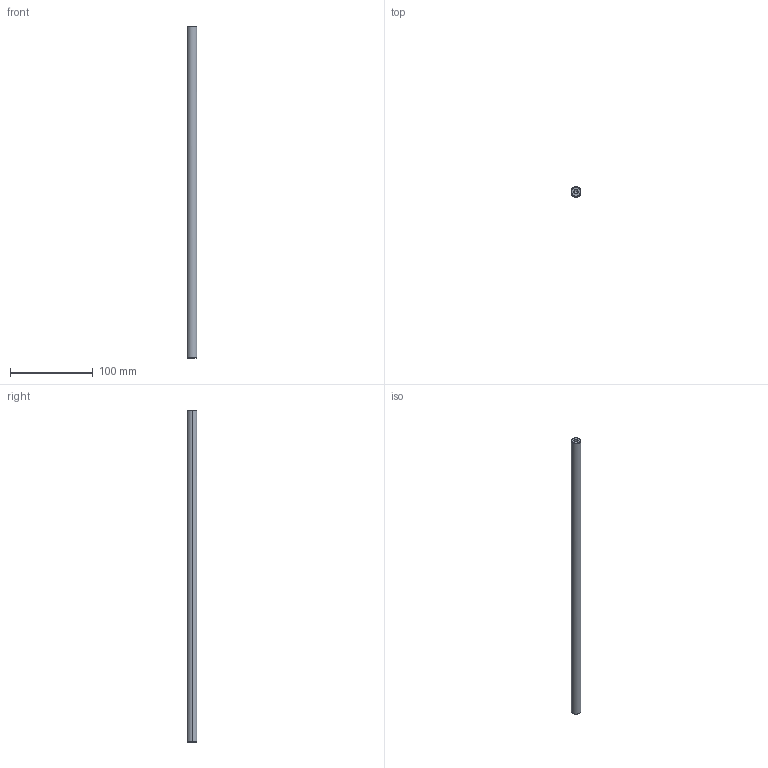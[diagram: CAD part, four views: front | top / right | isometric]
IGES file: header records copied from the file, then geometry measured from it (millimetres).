
Global section: file name: O:\Archiv\ARCHIV\153\3D-Model Kunde (DXF, IGS, SAT)\15301149_MST 45-40.igs; native system: AutoCAD-17.2s (LMS Tech) (Microsoft Windows NT Version 6.1 (x64)); preprocessor: Autodesk IGES Translator Mechanical Desktop 2009 (Feb 21 2008) from Autodesk, Inc.; date: 20140722.112200; units: millimetre
Bounding box: 12 x 12 x 400 mm (x, y, z)
Surface area: 15610.2 mm2 (no closed solid volume)
Topology: 0 solids, 0 shells, 12 faces, 227 edges, 225 vertices
Faces by surface type: bspline 12
